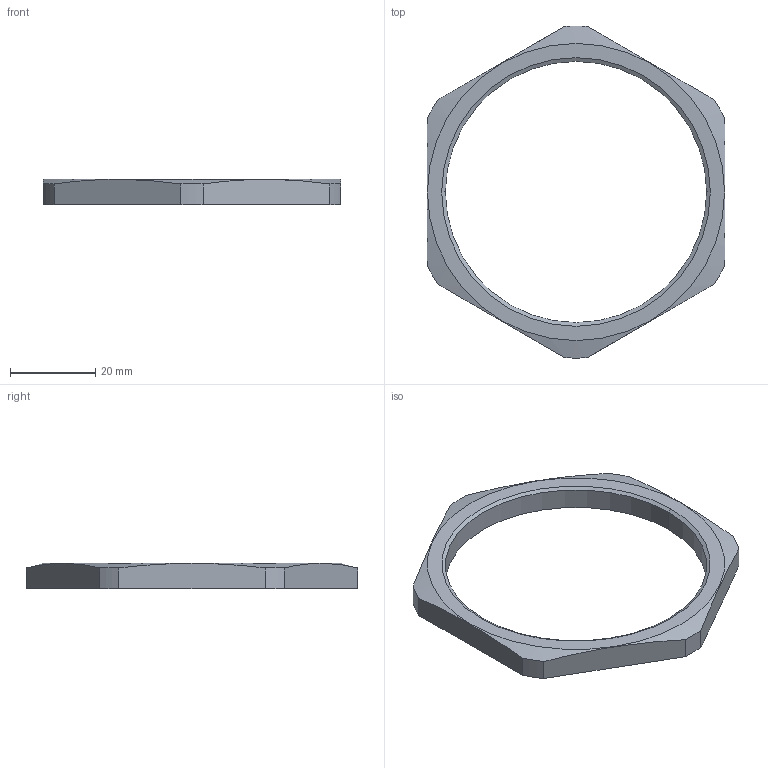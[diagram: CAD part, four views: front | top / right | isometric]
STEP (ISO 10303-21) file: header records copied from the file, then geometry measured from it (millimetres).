
FILE_DESCRIPTION (( 'STEP AP203' ), '1' );
FILE_NAME ('50.263 ES.STEP', '2006-05-24T11:41:05', ( ' ' ), ( '' ), 'SwSTEP 2.0', 'SolidWorks 2005278', '' );
FILE_SCHEMA (( 'CONFIG_CONTROL_DESIGN' ));
Length unit declared in the file: millimetre
Products named in the file (1): 50.263 ES
Bounding box: 70 x 77.98 x 6 mm (x, y, z)
Volume: 7337.8 mm3; surface area: 4873.8 mm2
Topology: 1 solids, 1 shells, 59 faces, 158 edges, 104 vertices
Faces by surface type: plane 45, cylinder 8, cone 6
Entity records: 1943 total; most frequent: CARTESIAN_POINT 378, ORIENTED_EDGE 316, DIRECTION 292, EDGE_CURVE 158, LINE 128, VECTOR 128, VERTEX_POINT 104, AXIS2_PLACEMENT_3D 82
